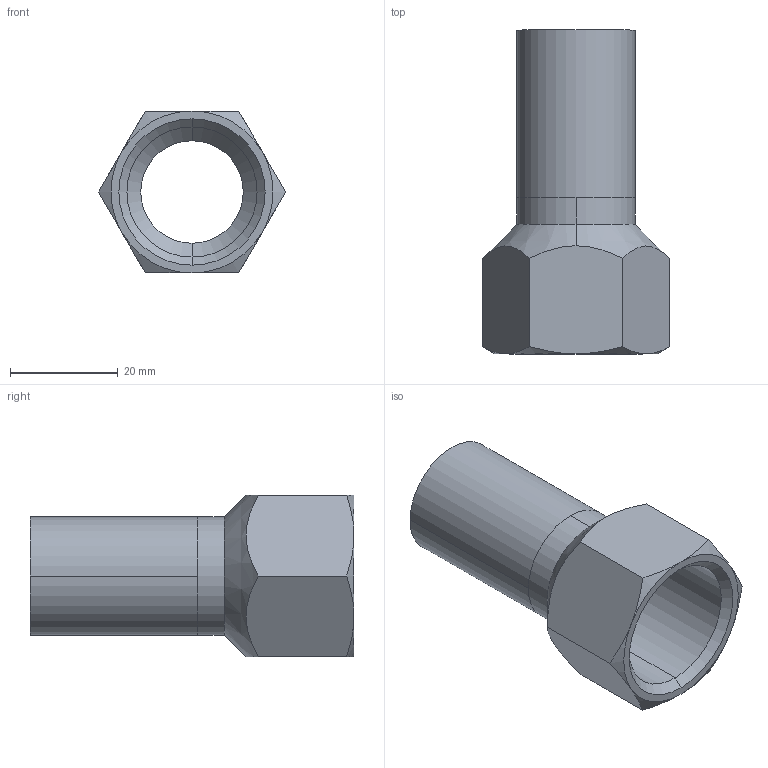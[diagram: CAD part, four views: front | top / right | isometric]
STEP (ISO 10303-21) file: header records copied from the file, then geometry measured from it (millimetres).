
FILE_DESCRIPTION (( 'STEP AP203' ), '1' );
FILE_NAME ('GDA6386.STEP', '2019-07-03T03:36:21', ( '' ), ( '' ), 'SwSTEP 2.0', 'SolidWorks 2015', '' );
FILE_SCHEMA (( 'CONFIG_CONTROL_DESIGN' ));
Length unit declared in the file: millimetre
Products named in the file (3): GDA6386; 22眻奪; 22｡ﾁ?
Assembly tree (2 placements, depth 2):
  GDA6386
    22｡ﾁ?
    22眻奪
Bounding box: 34.64 x 60 x 30 mm (x, y, z)
Volume: 10741.6 mm3; surface area: 9539.3 mm2
Topology: 2 solids, 2 shells, 32 faces, 70 edges, 42 vertices
Faces by surface type: cone 12, cylinder 10, plane 10
Entity records: 1295 total; most frequent: CARTESIAN_POINT 301, DIRECTION 152, ORIENTED_EDGE 140, EDGE_CURVE 70, AXIS2_PLACEMENT_3D 65, VERTEX_POINT 42, EDGE_LOOP 36, FACE_OUTER_BOUND 32
